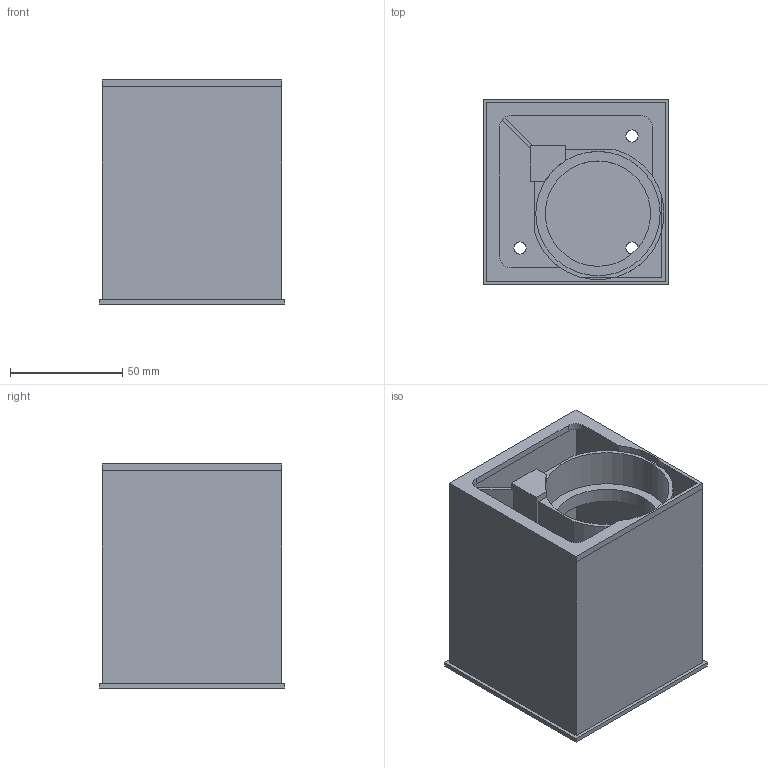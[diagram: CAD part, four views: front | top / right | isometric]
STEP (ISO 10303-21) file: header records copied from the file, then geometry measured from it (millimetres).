
FILE_DESCRIPTION (( 'STEP AP203' ), '1' );
FILE_NAME ('Nábytková noha ètvercová 80x80mm 100mm_87064_153312.STEP', '2022-12-06T07:42:59', ( '' ), ( '' ), 'SwSTEP 2.0', 'SolidWorks 2019', '' );
FILE_SCHEMA (( 'CONFIG_CONTROL_DESIGN' ));
Length unit declared in the file: millimetre
Products named in the file (1): Nábytková noha ètvercová 80x80mm 100mm_87064_153312
Bounding box: 83 x 83 x 100 mm (x, y, z)
Volume: 92154 mm3; surface area: 101423.1 mm2
Topology: 5 solids, 5 shells, 68 faces, 171 edges, 114 vertices
Faces by surface type: plane 49, cylinder 19
Entity records: 2126 total; most frequent: CARTESIAN_POINT 354, DIRECTION 347, ORIENTED_EDGE 342, EDGE_CURVE 171, VECTOR 133, LINE 133, VERTEX_POINT 114, AXIS2_PLACEMENT_3D 107
